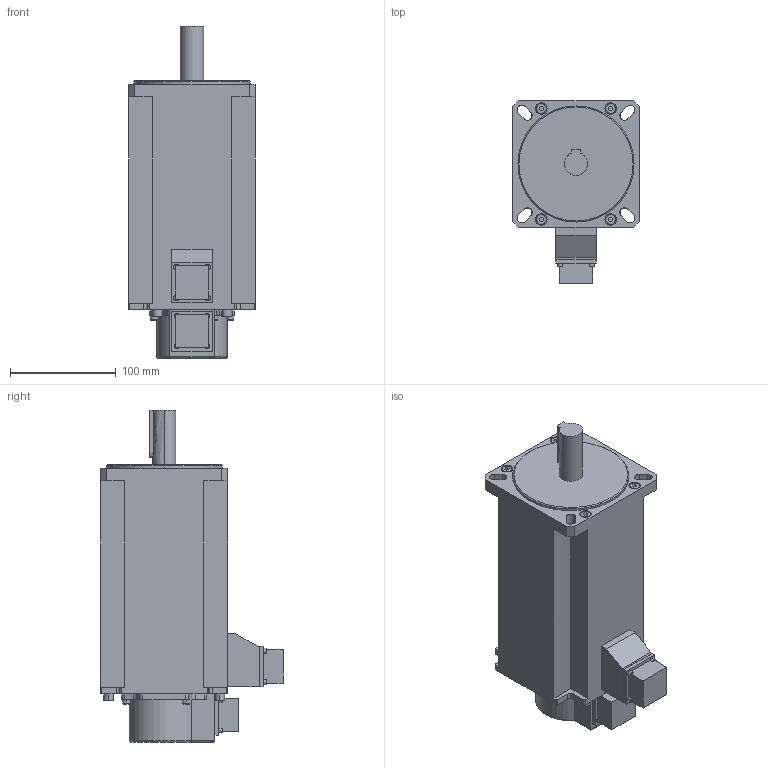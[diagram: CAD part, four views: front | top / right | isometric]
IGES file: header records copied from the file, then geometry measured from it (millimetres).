
Start section:  PTC IGES file: rsms_35atk3-070830.igs
Global section: file name: rsms_35atk3-070830.igs; native system: Pro/ENGINEER by Parametric Technology Corporation; preprocessor: 2004440; author: Administrator; organization: Unknown; date: 070830.155955; units: millimetre
Bounding box: 120 x 172.7 x 314.5 mm (x, y, z)
Volume: 3020138.2 mm3; surface area: 164320.2 mm2
Topology: 1 solids, 1 shells, 274 faces, 708 edges, 464 vertices
Faces by surface type: bspline 171, revolution 103
